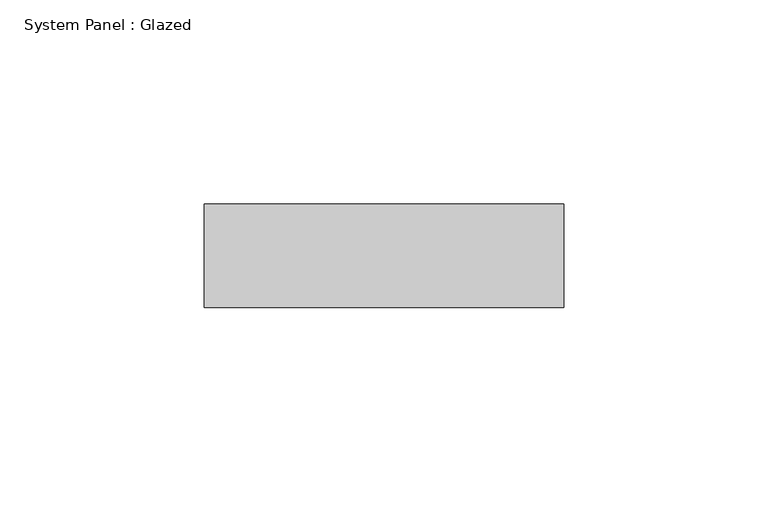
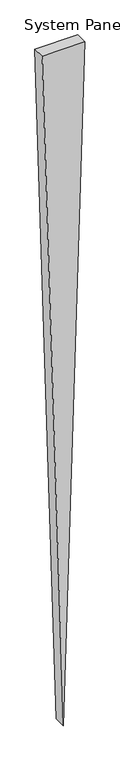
"""IFC4 building model written with IfcOpenShell, lengths in millimetres: plate geometry, System Panel : Glazed."""

from ifc_helpers import new_model, si_unit, frame, origin, place, context, project, spatial, polyline, outline, extrude, source, transform, mapped, element, save


def system_panel_glazed_ec629fbb(model_context):
    return source(origin(), model_context, "Body", "SweptSolid", [
        extrude(outline(polyline([(1471.7858309, -44.0393603), (0.0, 0.0), (1471.7858309, 44.0393603), (1471.7858309, -44.0393603)])), frame((0.0, 19.05, 0.0), z_axis=(0.0, 1.0, 0.0), x_axis=(0.0, 0.0, 1.0)), (0.0, 0.0, 1.0), 25.4),
    ])


if __name__ == "__main__":
    model = new_model("IFC4")
    model_context = context("Model", 3, world=origin())
    ifc_project = project(units=[si_unit("LENGTHUNIT", "METRE", prefix="MILLI")], contexts=[model_context])
    site = spatial("IfcSite", under=ifc_project)
    building = spatial("IfcBuilding", under=site)
    placement = place(None, origin())
    system_panel_glazed_shape = system_panel_glazed_ec629fbb(model_context)
    element("IfcPlate", 1, ObjectType="System Panel : Glazed", at=placement, inside=building, context=model_context, shape_type="MappedRepresentation", body=[
        mapped(system_panel_glazed_shape, transform((0.0, 0.0, 0.0), x_axis=(1.0, 0.0, 0.0), y_axis=(0.0, 1.0, 0.0), z_axis=(0.0, 0.0, 1.0))),
    ])
    save(model, "model.ifc")
